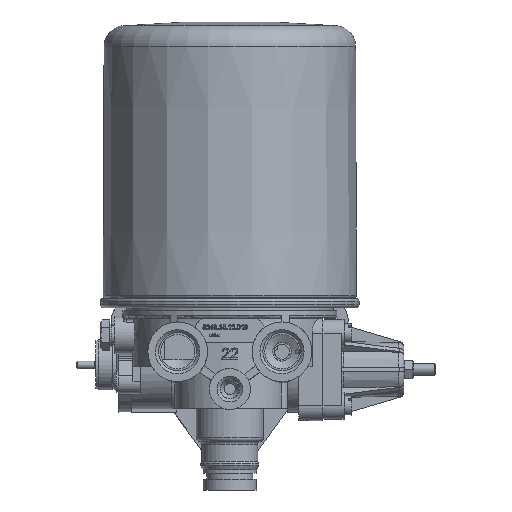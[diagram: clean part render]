
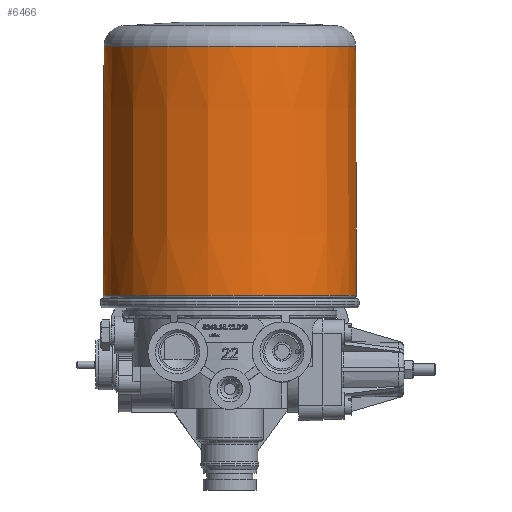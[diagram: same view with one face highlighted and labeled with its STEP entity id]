
A CAD part, front view. The second image highlights one B-rep face of the part: STEP entity #6466.
In plain terms, the highlighted conical face has half-angle 0.208 degrees and reference radius 68 mm.
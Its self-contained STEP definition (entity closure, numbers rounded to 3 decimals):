
#5797=CONICAL_SURFACE('',#24211,68.,0.208);
#6466=ADVANCED_FACE('',(#7840,#7841),#5797,.T.);
#7840=FACE_BOUND('',#9031,.T.);
#7841=FACE_BOUND('',#9032,.T.);
#9031=EDGE_LOOP('',(#13027));
#9032=EDGE_LOOP('',(#13028));
#13027=ORIENTED_EDGE('',*,*,#20365,.F.);
#13028=ORIENTED_EDGE('',*,*,#20366,.F.);
#17622=VERTEX_POINT('',#39010);
#17623=VERTEX_POINT('',#39012);
#20365=EDGE_CURVE('',#17622,#17622,#22511,.T.);
#20366=EDGE_CURVE('',#17623,#17623,#22512,.T.);
#22511=CIRCLE('',#24209,67.985);
#22512=CIRCLE('',#24210,67.5);
#24209=AXIS2_PLACEMENT_3D('',#39009,#28456,#28457);
#24210=AXIS2_PLACEMENT_3D('',#39011,#28458,#28459);
#24211=AXIS2_PLACEMENT_3D('',#39013,#28460,#28461);
#28456=DIRECTION('',(0.,0.,-1.));
#28457=DIRECTION('',(-1.,0.,0.));
#28458=DIRECTION('',(0.,0.,1.));
#28459=DIRECTION('',(1.,0.,0.));
#28460=DIRECTION('',(0.,0.,-1.));
#28461=DIRECTION('',(1.,0.,0.));
#39009=CARTESIAN_POINT('',(0.,0.,34.3));
#39010=CARTESIAN_POINT('',(-67.985,0.,34.3));
#39011=CARTESIAN_POINT('',(0.,0.,168.04));
#39012=CARTESIAN_POINT('',(67.5,0.,168.04));
#39013=CARTESIAN_POINT('',(0.,0.,30.296));
